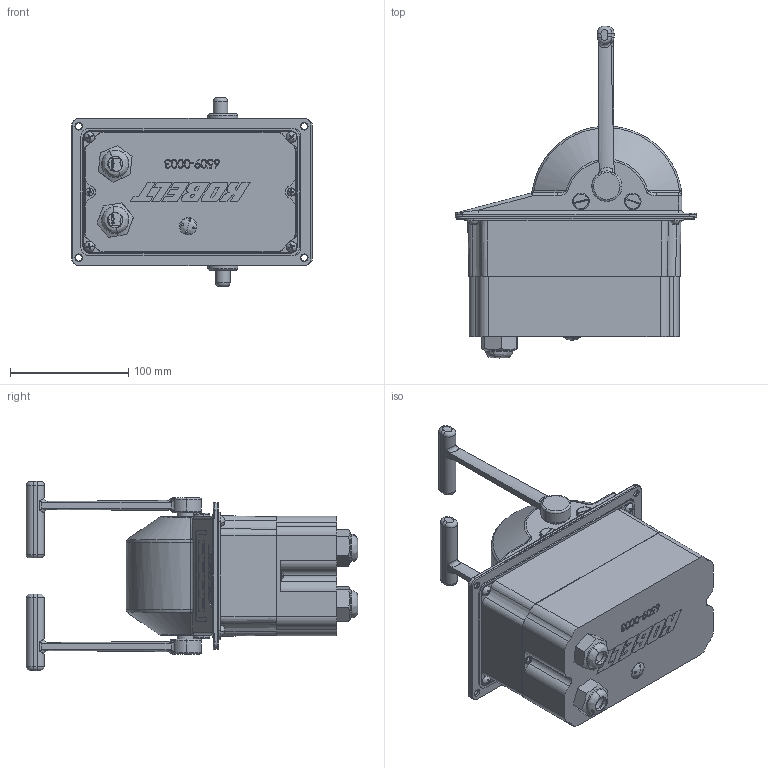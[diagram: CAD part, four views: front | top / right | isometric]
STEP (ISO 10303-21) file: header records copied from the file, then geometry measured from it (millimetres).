
FILE_DESCRIPTION (( 'STEP AP203' ), '1' );
FILE_NAME ('6509S-TC.STEP', '2020-06-19T16:18:01', ( '' ), ( '' ), 'SwSTEP 2.0', 'SolidWorks 2019', '' );
FILE_SCHEMA (( 'CONFIG_CONTROL_DESIGN' ));
Length unit declared in the file: inch
Products named in the file (2): 6509S-TC
Bounding box: 204.06 x 280.85 x 160.1 mm (x, y, z)
Surface area: 173546.6 mm2 (no closed solid volume)
Topology: 0 solids, 63 shells, 671 faces, 3422 edges, 2763 vertices
Faces by surface type: plane 310, cylinder 178, bspline 108, torus 36, cone 33, sphere 6
Entity records: 48632 total; most frequent: CARTESIAN_POINT 23559, ORIENTED_EDGE 4714, DIRECTION 4573, EDGE_CURVE 3416, VERTEX_POINT 2763, AXIS2_PLACEMENT_3D 1526, VECTOR 1521, LINE 1521
